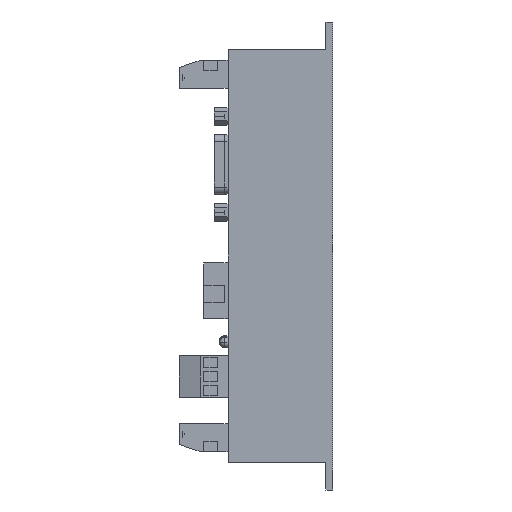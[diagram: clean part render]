
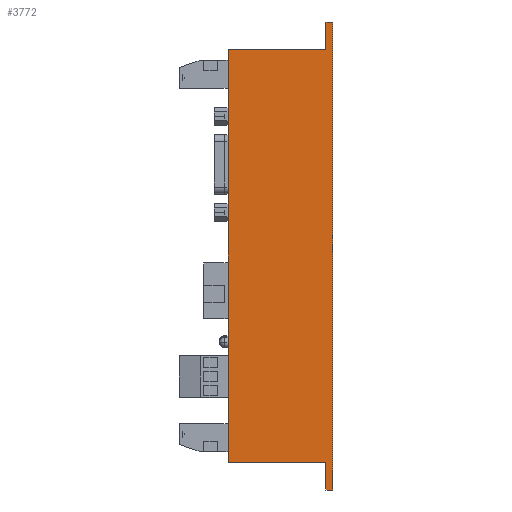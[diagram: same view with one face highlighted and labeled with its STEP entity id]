
A CAD part, left-side view. The second image highlights one B-rep face of the part: STEP entity #3772.
In plain terms, the highlighted planar face has unit normal (-1, 0, 0).
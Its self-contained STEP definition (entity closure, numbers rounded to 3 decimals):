
#9 = ORIENTED_EDGE ( 'NONE', *, *, #9689, .F. ) ;
#306 = VERTEX_POINT ( 'NONE', #4836 ) ;
#630 = DIRECTION ( 'NONE',  ( 0., 0., -1. ) ) ;
#868 = VECTOR ( 'NONE', #12436, 1000. ) ;
#914 = VECTOR ( 'NONE', #2801, 1000. ) ;
#1019 = LINE ( 'NONE', #11675, #8185 ) ;
#1181 = ORIENTED_EDGE ( 'NONE', *, *, #7742, .F. ) ;
#1201 = LINE ( 'NONE', #6073, #868 ) ;
#1520 = VERTEX_POINT ( 'NONE', #9737 ) ;
#2311 = DIRECTION ( 'NONE',  ( 0., 0., 1. ) ) ;
#2451 = LINE ( 'NONE', #4071, #7790 ) ;
#2597 = LINE ( 'NONE', #13328, #10728 ) ;
#2798 = VERTEX_POINT ( 'NONE', #7854 ) ;
#2801 = DIRECTION ( 'NONE',  ( 0., -1., 0. ) ) ;
#2967 = EDGE_CURVE ( 'NONE', #5004, #11005, #6554, .T. ) ;
#3131 = DIRECTION ( 'NONE',  ( 0., 1., 0. ) ) ;
#3772 = ADVANCED_FACE ( 'NONE', ( #10224 ), #4854, .F. ) ;
#4071 = CARTESIAN_POINT ( 'NONE',  ( 0., 2., -50.297 ) ) ;
#4369 = VECTOR ( 'NONE', #5210, 1000. ) ;
#4576 = LINE ( 'NONE', #8790, #12682 ) ;
#4836 = CARTESIAN_POINT ( 'NONE',  ( 0., 0., -58.297 ) ) ;
#4854 = PLANE ( 'NONE',  #7667 ) ;
#5004 = VERTEX_POINT ( 'NONE', #13082 ) ;
#5134 = DIRECTION ( 'NONE',  ( 0., 1., 0. ) ) ;
#5210 = DIRECTION ( 'NONE',  ( 0., 0., 1. ) ) ;
#5333 = VECTOR ( 'NONE', #2311, 1000. ) ;
#6073 = CARTESIAN_POINT ( 'NONE',  ( 0., 30., -50.297 ) ) ;
#6430 = CARTESIAN_POINT ( 'NONE',  ( 0., 0., 75.703 ) ) ;
#6554 = LINE ( 'NONE', #10260, #914 ) ;
#6762 = EDGE_CURVE ( 'NONE', #1520, #13068, #7527, .T. ) ;
#6990 = DIRECTION ( 'NONE',  ( 0., 0., -1. ) ) ;
#7084 = EDGE_LOOP ( 'NONE', ( #8653, #1181, #9, #8362, #7412, #10302, #11153, #11562 ) ) ;
#7182 = VERTEX_POINT ( 'NONE', #7211 ) ;
#7211 = CARTESIAN_POINT ( 'NONE',  ( 0., 2., 67.703 ) ) ;
#7412 = ORIENTED_EDGE ( 'NONE', *, *, #11389, .F. ) ;
#7527 = LINE ( 'NONE', #10499, #4369 ) ;
#7667 = AXIS2_PLACEMENT_3D ( 'NONE', #12226, #13322, #6990 ) ;
#7742 = EDGE_CURVE ( 'NONE', #7182, #5004, #7848, .T. ) ;
#7790 = VECTOR ( 'NONE', #5134, 1000. ) ;
#7848 = LINE ( 'NONE', #10805, #5333 ) ;
#7854 = CARTESIAN_POINT ( 'NONE',  ( 0., 30., -50.297 ) ) ;
#8185 = VECTOR ( 'NONE', #3131, 1000. ) ;
#8362 = ORIENTED_EDGE ( 'NONE', *, *, #12502, .F. ) ;
#8653 = ORIENTED_EDGE ( 'NONE', *, *, #2967, .F. ) ;
#8790 = CARTESIAN_POINT ( 'NONE',  ( 0., 30., 67.703 ) ) ;
#9029 = VERTEX_POINT ( 'NONE', #9809 ) ;
#9689 = EDGE_CURVE ( 'NONE', #9029, #7182, #4576, .T. ) ;
#9737 = CARTESIAN_POINT ( 'NONE',  ( 0., 2., -58.297 ) ) ;
#9809 = CARTESIAN_POINT ( 'NONE',  ( 0., 30., 67.703 ) ) ;
#10094 = CARTESIAN_POINT ( 'NONE',  ( 0., 2., -50.297 ) ) ;
#10224 = FACE_OUTER_BOUND ( 'NONE', #7084, .T. ) ;
#10260 = CARTESIAN_POINT ( 'NONE',  ( 0., 2., 75.703 ) ) ;
#10302 = ORIENTED_EDGE ( 'NONE', *, *, #6762, .F. ) ;
#10499 = CARTESIAN_POINT ( 'NONE',  ( 0., 2., -58.297 ) ) ;
#10728 = VECTOR ( 'NONE', #630, 1000. ) ;
#10805 = CARTESIAN_POINT ( 'NONE',  ( 0., 2., 67.703 ) ) ;
#11005 = VERTEX_POINT ( 'NONE', #6430 ) ;
#11153 = ORIENTED_EDGE ( 'NONE', *, *, #12662, .F. ) ;
#11389 = EDGE_CURVE ( 'NONE', #13068, #2798, #2451, .T. ) ;
#11562 = ORIENTED_EDGE ( 'NONE', *, *, #11836, .F. ) ;
#11675 = CARTESIAN_POINT ( 'NONE',  ( 0., 0., -58.297 ) ) ;
#11836 = EDGE_CURVE ( 'NONE', #11005, #306, #2597, .T. ) ;
#11997 = DIRECTION ( 'NONE',  ( 0., -1., 0. ) ) ;
#12226 = CARTESIAN_POINT ( 'NONE',  ( 0., 0., 0. ) ) ;
#12436 = DIRECTION ( 'NONE',  ( 0., 0., 1. ) ) ;
#12502 = EDGE_CURVE ( 'NONE', #2798, #9029, #1201, .T. ) ;
#12662 = EDGE_CURVE ( 'NONE', #306, #1520, #1019, .T. ) ;
#12682 = VECTOR ( 'NONE', #11997, 1000. ) ;
#13068 = VERTEX_POINT ( 'NONE', #10094 ) ;
#13082 = CARTESIAN_POINT ( 'NONE',  ( 0., 2., 75.703 ) ) ;
#13322 = DIRECTION ( 'NONE',  ( 1., 0., 0. ) ) ;
#13328 = CARTESIAN_POINT ( 'NONE',  ( 0., 0., 75.703 ) ) ;
